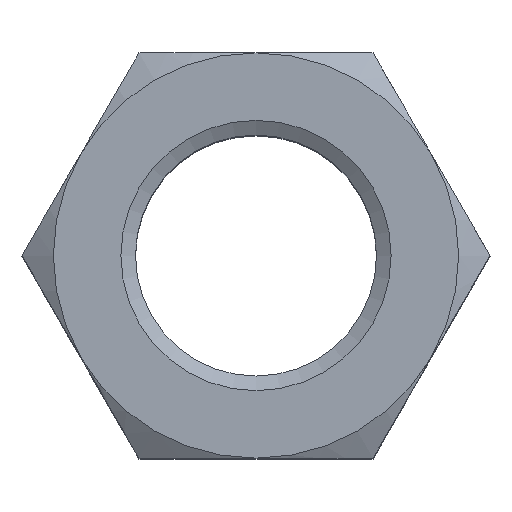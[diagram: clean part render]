
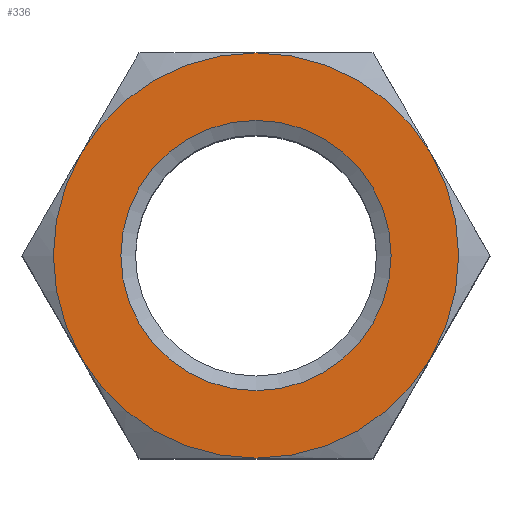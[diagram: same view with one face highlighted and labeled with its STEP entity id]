
A CAD part, top view. The second image highlights one B-rep face of the part: STEP entity #336.
In plain terms, the highlighted planar face has unit normal (0, 0, 1) as drawn and (-1, 0, 0) by its records, which use the part's own axes.
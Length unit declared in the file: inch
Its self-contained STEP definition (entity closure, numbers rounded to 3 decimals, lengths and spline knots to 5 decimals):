
#47=FACE_BOUND('',#84,.T.);
#49=PLANE('',#392);
#60=FACE_OUTER_BOUND('',#83,.T.);
#83=EDGE_LOOP('',(#229,#230,#231,#232,#233,#234));
#84=EDGE_LOOP('',(#235));
#124=CIRCLE('',#387,0.25006);
#128=CIRCLE('',#393,0.375);
#129=CIRCLE('',#394,0.375);
#130=CIRCLE('',#395,0.375);
#131=CIRCLE('',#396,0.375);
#132=CIRCLE('',#397,0.375);
#133=CIRCLE('',#398,0.375);
#141=VERTEX_POINT('',#528);
#145=VERTEX_POINT('',#540);
#146=VERTEX_POINT('',#541);
#147=VERTEX_POINT('',#543);
#148=VERTEX_POINT('',#545);
#149=VERTEX_POINT('',#547);
#150=VERTEX_POINT('',#549);
#170=EDGE_CURVE('',#141,#141,#124,.T.);
#176=EDGE_CURVE('',#145,#146,#128,.T.);
#177=EDGE_CURVE('',#146,#147,#129,.T.);
#178=EDGE_CURVE('',#147,#148,#130,.T.);
#179=EDGE_CURVE('',#148,#149,#131,.T.);
#180=EDGE_CURVE('',#149,#150,#132,.T.);
#181=EDGE_CURVE('',#150,#145,#133,.T.);
#229=ORIENTED_EDGE('',*,*,#176,.T.);
#230=ORIENTED_EDGE('',*,*,#177,.T.);
#231=ORIENTED_EDGE('',*,*,#178,.T.);
#232=ORIENTED_EDGE('',*,*,#179,.T.);
#233=ORIENTED_EDGE('',*,*,#180,.T.);
#234=ORIENTED_EDGE('',*,*,#181,.T.);
#235=ORIENTED_EDGE('',*,*,#170,.F.);
#336=ADVANCED_FACE('',(#60,#47),#49,.F.);
#387=AXIS2_PLACEMENT_3D('',#529,#434,#435);
#392=AXIS2_PLACEMENT_3D('',#539,#446,#447);
#393=AXIS2_PLACEMENT_3D('',#542,#448,#449);
#394=AXIS2_PLACEMENT_3D('',#544,#450,#451);
#395=AXIS2_PLACEMENT_3D('',#546,#452,#453);
#396=AXIS2_PLACEMENT_3D('',#548,#454,#455);
#397=AXIS2_PLACEMENT_3D('',#550,#456,#457);
#398=AXIS2_PLACEMENT_3D('',#551,#458,#459);
#434=DIRECTION('center_axis',(-1.,0.,0.));
#435=DIRECTION('ref_axis',(0.,0.,-1.));
#446=DIRECTION('center_axis',(1.,0.,0.));
#447=DIRECTION('ref_axis',(0.,0.,-1.));
#448=DIRECTION('center_axis',(-1.,0.,0.));
#449=DIRECTION('ref_axis',(0.,1.,0.));
#450=DIRECTION('center_axis',(-1.,0.,0.));
#451=DIRECTION('ref_axis',(0.,1.,0.));
#452=DIRECTION('center_axis',(-1.,0.,0.));
#453=DIRECTION('ref_axis',(0.,1.,0.));
#454=DIRECTION('center_axis',(-1.,0.,0.));
#455=DIRECTION('ref_axis',(0.,1.,0.));
#456=DIRECTION('center_axis',(-1.,0.,0.));
#457=DIRECTION('ref_axis',(0.,1.,0.));
#458=DIRECTION('center_axis',(-1.,0.,0.));
#459=DIRECTION('ref_axis',(0.,1.,0.));
#528=CARTESIAN_POINT('',(0.,0.,0.25006));
#529=CARTESIAN_POINT('Origin',(0.,0.,0.));
#539=CARTESIAN_POINT('Origin',(0.,0.,0.));
#540=CARTESIAN_POINT('',(0.,-0.32476,-0.1875));
#541=CARTESIAN_POINT('',(0.,-0.32476,0.1875));
#542=CARTESIAN_POINT('Origin',(0.,0.,0.));
#543=CARTESIAN_POINT('',(0.,0.,0.375));
#544=CARTESIAN_POINT('Origin',(0.,0.,0.));
#545=CARTESIAN_POINT('',(0.,0.32476,0.1875));
#546=CARTESIAN_POINT('Origin',(0.,0.,0.));
#547=CARTESIAN_POINT('',(0.,0.32476,-0.1875));
#548=CARTESIAN_POINT('Origin',(0.,0.,0.));
#549=CARTESIAN_POINT('',(0.,0.,-0.375));
#550=CARTESIAN_POINT('Origin',(0.,0.,0.));
#551=CARTESIAN_POINT('Origin',(0.,0.,0.));
